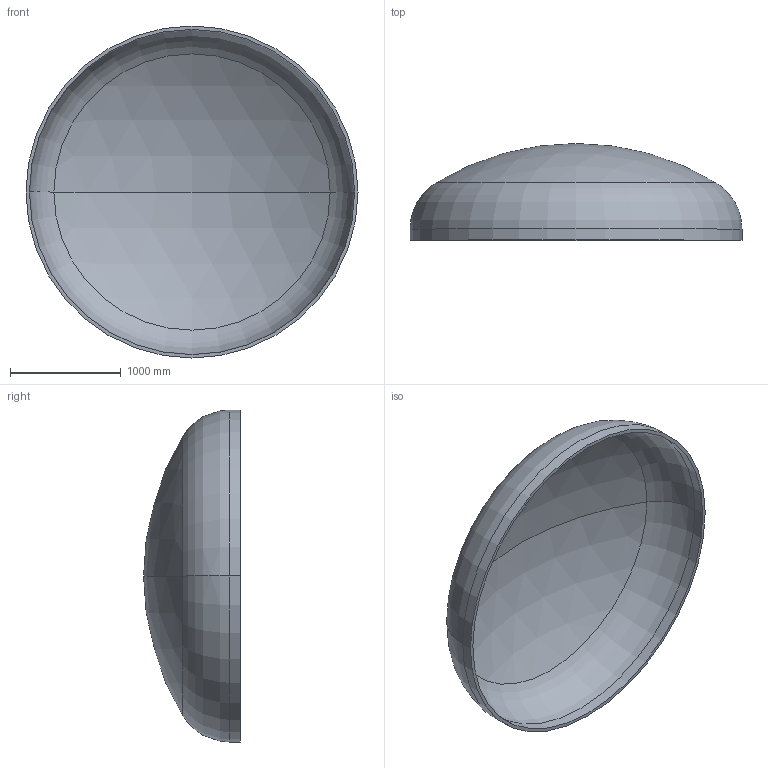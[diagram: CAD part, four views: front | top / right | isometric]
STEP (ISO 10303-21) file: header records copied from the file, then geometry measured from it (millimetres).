
FILE_DESCRIPTION (( 'STEP AP203' ), '1' );
FILE_NAME ('DIN 28013 Korbbogenform_-_Boden DIN 28013 - 3000 x 100 - I - s=31.step', '2016-07-01T17:40:41', ( '' ), ( '' ), 'SwSTEP 2.0', 'SolidWorks 2013', '' );
FILE_SCHEMA (( 'CONFIG_CONTROL_DESIGN' ));
Length unit declared in the file: millimetre
Products named in the file (1): DIN 28013 Korbbogenform_-_Boden DIN 28013 - 3000 x 100 - I - s=31
Bounding box: 3000 x 874.04 x 3000 mm (x, y, z)
Volume: 328028057.3 mm3; surface area: 21454254.5 mm2
Topology: 1 solids, 1 shells, 13 faces, 24 edges, 14 vertices
Faces by surface type: torus 4, cylinder 4, sphere 4, plane 1
Entity records: 407 total; most frequent: DIRECTION 72, CARTESIAN_POINT 52, ORIENTED_EDGE 48, AXIS2_PLACEMENT_3D 34, EDGE_CURVE 24, CIRCLE 20, EDGE_LOOP 14, VERTEX_POINT 14
